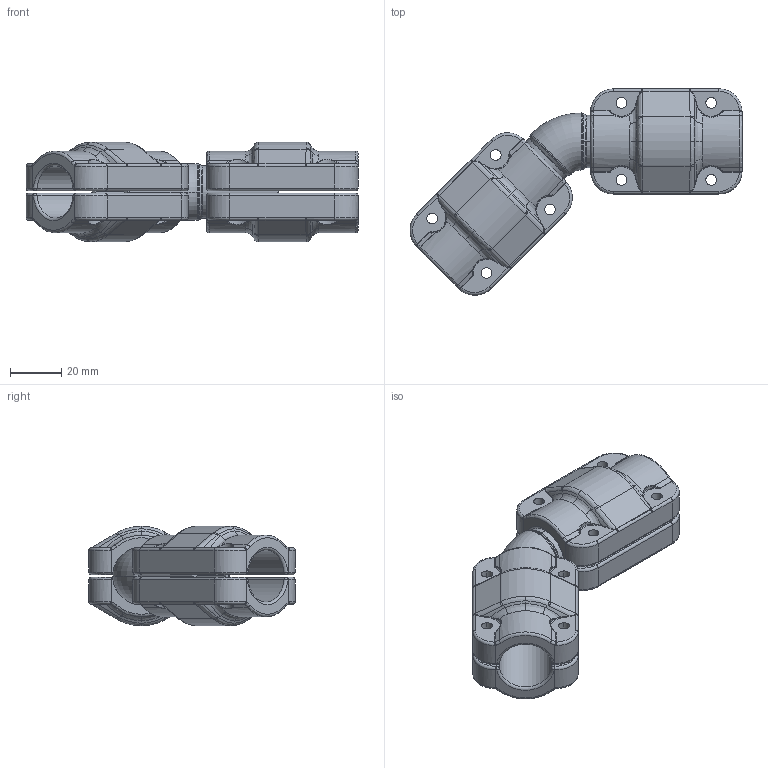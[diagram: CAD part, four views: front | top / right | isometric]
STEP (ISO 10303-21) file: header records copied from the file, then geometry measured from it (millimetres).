
FILE_DESCRIPTION((''),'2;1');
FILE_NAME('2015100499_ASM_9_ASM','2017-05-15T',('Administrator'),(''),'PRO/ENGINEER BY PARAMETRIC TECHNOLOGY CORPORATION, 2009360','PRO/ENGINEER BY PARAMETRIC TECHNOLOGY CORPORATION, 2009360','');
FILE_SCHEMA(('AUTOMOTIVE_DESIGN_CC2 { 1 2 10303 214 -1 1 5 2 }'));
Length unit declared in the file: millimetre
Products named in the file (5): 2015100400_7; 201510020000_38_1; 201510020001_10_1; 2015100200_ASM_1_ASM; 2015100499_ASM_9_ASM
Assembly tree (5 placements, depth 3):
  2015100499_ASM_9_ASM
    2015100400_7
    2015100200_ASM_1_ASM  x2
      201510020000_38_1
      201510020001_10_1
Bounding box: 129.4 x 80.4 x 38.8 mm (x, y, z)
Volume: 94433.7 mm3; surface area: 44841.6 mm2
Topology: 5 solids, 17 shells, 767 faces, 1862 edges, 1115 vertices
Faces by surface type: bspline 273, cylinder 230, torus 138, plane 78, cone 32, sphere 16
Entity records: 20397 total; most frequent: CARTESIAN_POINT 8986, ORIENTED_EDGE 1956, DIRECTION 1520, EDGE_CURVE 978, AXIS2_PLACEMENT_3D 663, VERTEX_POINT 593, PRESENTATION_STYLE_ASSIGNMENT 473, STYLED_ITEM 473
